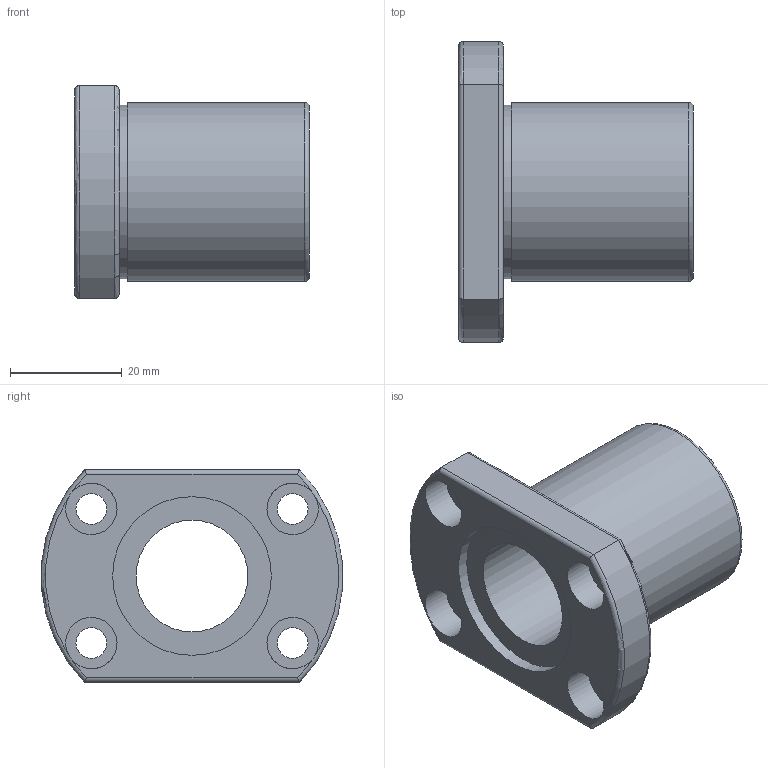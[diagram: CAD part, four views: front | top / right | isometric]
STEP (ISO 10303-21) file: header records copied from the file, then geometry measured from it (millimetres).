
FILE_DESCRIPTION( ( 'Unknown' ), '1' );
FILE_NAME( 'D:/累诀/己绕皋墨飘肺葱胶/11-04-06_档搁累己/01_府聪绢何教/LMH/LMH 20.stp', 'Unknown', ( 'Unknown' ), ( 'Unknown' ), 'PSStep 11.0', 'Unknown', ' ' );
FILE_SCHEMA( ( 'AUTOMOTIVE_DESIGN { 1 0 10303 214 1 1 1 1 }' ) );
Length unit declared in the file: millimetre
Products named in the file (1): 1
Bounding box: 42 x 53.81 x 38 mm (x, y, z)
Volume: 25935 mm3; surface area: 11123.8 mm2
Topology: 1 solids, 1 shells, 36 faces, 85 edges, 55 vertices
Faces by surface type: cylinder 19, plane 12, torus 5
Full cylindrical faces by diameter (mm): 5.5 x4, 9.2 x4, 20 x1, 28.376 x2, 31 x1, 32 x1
Entity records: 1314 total; most frequent: CARTESIAN_POINT 223, DIRECTION 172, ORIENTED_EDGE 134, AXIS2_PLACEMENT_3D 80, EDGE_CURVE 67, EDGE_LOOP 64, VERTEX_POINT 51, FACE_OUTER_BOUND 50
